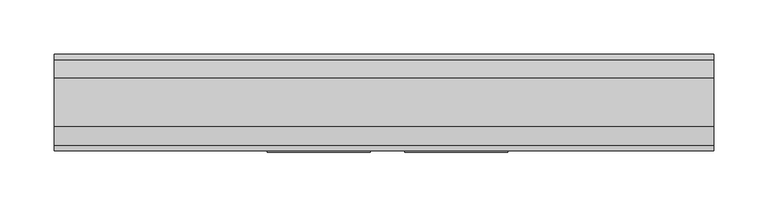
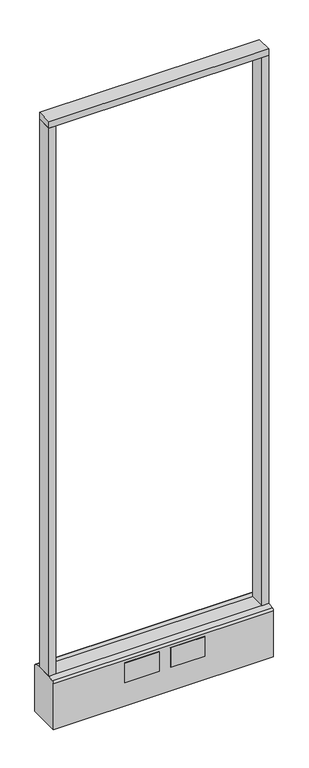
"""IFC4 building model written with IfcOpenShell, lengths in millimetres: furniture geometry."""

from ifc_helpers import new_model, si_unit, point, frame, frame_2d, origin, origin_with_axes, place, context, project, spatial, polyline, circle_curve, trimmed, segment, composite_curve, outline, extrude, source, transform, mapped, element, save


def furniture_61a489be(model_context):
    return source(origin(), model_context, "Body", "SweptSolid", [
        extrude(outline(polyline([(304.8, -22.225), (-304.8, -22.225), (-304.8, 22.225), (304.8, 22.225), (304.8, -22.225)])), frame((0.0, 0.0, 1758.95), z_axis=(0.0, 0.0, 1.0), x_axis=(1.0, 0.0, 0.0)), (0.0, 0.0, 1.0), 19.05),
        extrude(outline(composite_curve([segment(trimmed(circle_curve(frame_2d((-228.6, 0.0)), 23.415625), [point((-252.015625, 0.0))], [point((-205.184375, 0.0))], False, "CARTESIAN"), True, "CONTINUOUS"), segment(trimmed(circle_curve(frame_2d((-228.6, 0.0)), 23.415625), [point((-205.184375, 0.0))], [point((-252.015625, 0.0))], False, "CARTESIAN"), True, "CONTINUOUS")], self_intersect=False)), origin_with_axes(), (0.0, 0.0, 1.0), 6.35),
        extrude(outline(composite_curve([segment(trimmed(circle_curve(frame_2d((228.6, 0.0)), 23.415625), [point((205.184375, 0.0))], [point((252.015625, 0.0))], False, "CARTESIAN"), True, "CONTINUOUS"), segment(trimmed(circle_curve(frame_2d((228.6, 0.0)), 23.415625), [point((252.015625, 0.0))], [point((205.184375, 0.0))], False, "CARTESIAN"), True, "CONTINUOUS")], self_intersect=False)), origin_with_axes(), (0.0, 0.0, 1.0), 6.35),
        extrude(outline(polyline([(-285.7500091, -22.225), (-304.8, -22.225), (-304.8, 22.225), (-285.7500091, 22.225), (-285.7500091, -22.225)])), frame((0.0, 0.0, 152.4), z_axis=(0.0, 0.0, 1.0), x_axis=(1.0, 0.0, 0.0)), (0.0, 0.0, 1.0), 1606.55),
        extrude(outline(polyline([(304.8, -22.225), (285.7500091, -22.225), (285.7500091, 22.225), (304.8, 22.225), (304.8, -22.225)])), frame((0.0, 0.0, 152.4), z_axis=(0.0, 0.0, 1.0), x_axis=(1.0, 0.0, 0.0)), (0.0, 0.0, 1.0), 1606.55),
        extrude(outline(composite_curve([segment(polyline([(-22.225, 152.4), (22.225, 152.4), (39.43219, 149.94183)]), True, "CONTINUOUS"), segment(trimmed(circle_curve(frame_2d((38.605678, 144.1562464)), 5.844322), [point((39.43219, 149.94183))], [point((44.45, 144.1562464))], False, "CARTESIAN"), True, "CONTINUOUS"), segment(polyline([(44.45, 144.1562464), (44.45, 9.525), (-44.4433083, 9.525), (-44.4433083, 144.1572033)]), True, "CONTINUOUS"), segment(trimmed(circle_curve(frame_2d((-38.5989863, 144.1572033)), 5.844322), [point((-44.4433083, 144.1572033))], [point((-39.4222979, 149.9432432))], False, "CARTESIAN"), True, "CONTINUOUS"), segment(polyline([(-39.4222979, 149.9432432), (-22.225, 152.4)]), True, "CONTINUOUS")], self_intersect=False)), frame((-304.8, 0.0, 0.0), z_axis=(1.0, 0.0, 0.0), x_axis=(0.0, 1.0, 0.0)), (0.0, 0.0, 1.0), 609.6),
        extrude(outline(polyline([(114.3, -46.0375), (19.05, -46.0375), (19.05, -44.45), (114.3, -44.45), (114.3, -46.0375)])), frame((0.0, 0.0, 79.1718), z_axis=(0.0, 0.0, 1.0), x_axis=(1.0, 0.0, 0.0)), (0.0, 0.0, 1.0), 57.15),
        extrude(outline(polyline([(-12.7, -46.0375), (-107.95, -46.0375), (-107.95, -44.45), (-12.7, -44.45), (-12.7, -46.0375)])), frame((0.0, 0.0, 79.1718), z_axis=(0.0, 0.0, 1.0), x_axis=(1.0, 0.0, 0.0)), (0.0, 0.0, 1.0), 57.15),
        extrude(outline(composite_curve([segment(trimmed(circle_curve(frame_2d((-228.6, 0.0)), 5.55625), [point((-234.15625, 0.0))], [point((-223.04375, 0.0))], False, "CARTESIAN"), True, "CONTINUOUS"), segment(trimmed(circle_curve(frame_2d((-228.6, 0.0)), 5.55625), [point((-223.04375, 0.0))], [point((-234.15625, 0.0))], False, "CARTESIAN"), True, "CONTINUOUS")], self_intersect=False)), frame((0.0, 0.0, 6.35), z_axis=(0.0, 0.0, 1.0), x_axis=(1.0, 0.0, 0.0)), (0.0, 0.0, 1.0), 3.175),
        extrude(outline(composite_curve([segment(trimmed(circle_curve(frame_2d((228.6, 0.0)), 5.55625), [point((223.04375, 0.0))], [point((234.15625, 0.0))], False, "CARTESIAN"), True, "CONTINUOUS"), segment(trimmed(circle_curve(frame_2d((228.6, 0.0)), 5.55625), [point((234.15625, 0.0))], [point((223.04375, 0.0))], False, "CARTESIAN"), True, "CONTINUOUS")], self_intersect=False)), frame((0.0, 0.0, 6.35), z_axis=(0.0, 0.0, 1.0), x_axis=(1.0, 0.0, 0.0)), (0.0, 0.0, 1.0), 3.175),
    ])


if __name__ == "__main__":
    model = new_model("IFC4")
    model_context = context("Model", 3, world=origin())
    ifc_project = project(units=[si_unit("LENGTHUNIT", "METRE", prefix="MILLI")], contexts=[model_context])
    site = spatial("IfcSite", under=ifc_project)
    building = spatial("IfcBuilding", under=site)
    placement = place(None, origin())
    furniture_shape = furniture_61a489be(model_context)
    element("IfcFurniture", 1, ObjectType="HermanMiller_Ethospace_E1109_Frame : 70\"H x 24\"W-H", at=placement, inside=building, context=model_context, shape_type="MappedRepresentation", body=[
        mapped(furniture_shape, transform((0.0, 0.0, 0.0), x_axis=(1.0, 0.0, 0.0), y_axis=(0.0, 1.0, 0.0), z_axis=(0.0, 0.0, 1.0))),
    ])
    save(model, "model.ifc")
